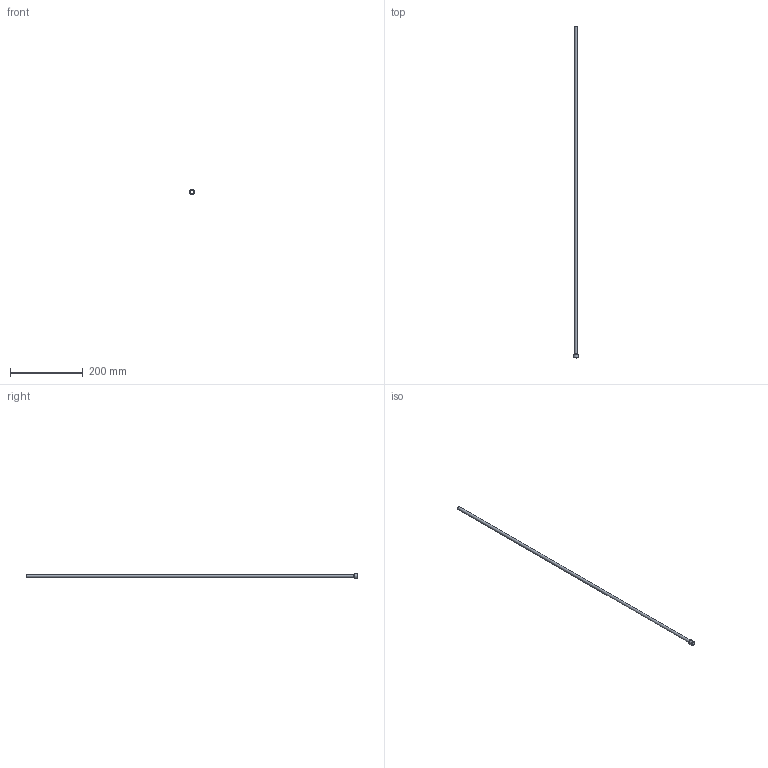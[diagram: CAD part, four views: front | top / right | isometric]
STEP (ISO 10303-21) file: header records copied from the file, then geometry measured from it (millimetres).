
FILE_DESCRIPTION(/* description */ (''),/* implementation_level */ '2;1');
FILE_NAME(/* name */ 'C:/Users/drich/Desktop/PT14-312-36 v2.step',/* time_stamp */ '2019-12-27T15:10:55-06:00',/* author */ (''),/* organization */ (''),/* preprocessor_version */ 'ST-DEVELOPER v18',/* originating_system */ 'Autodesk Translation Framework v8.12.0.6',/* authorisation */ '');
FILE_SCHEMA (('AUTOMOTIVE_DESIGN { 1 0 10303 214 3 1 1 }'));
Length unit declared in the file: inch
Products named in the file (1): PT14-312-36
Bounding box: 13.03 x 914.4 x 13.03 mm (x, y, z)
Volume: 7484 mm3; surface area: 44132 mm2
Topology: 1 solids, 1 shells, 19 faces, 48 edges, 34 vertices
Faces by surface type: plane 11, cylinder 4, torus 2, cone 2
Full cylindrical faces by diameter (mm): 7.315 x1, 7.925 x1, 9.906 x1, 13.032 x1
Entity records: 633 total; most frequent: DIRECTION 112, CARTESIAN_POINT 102, ORIENTED_EDGE 96, EDGE_CURVE 48, AXIS2_PLACEMENT_3D 44, VERTEX_POINT 34, CIRCLE 24, EDGE_LOOP 24
